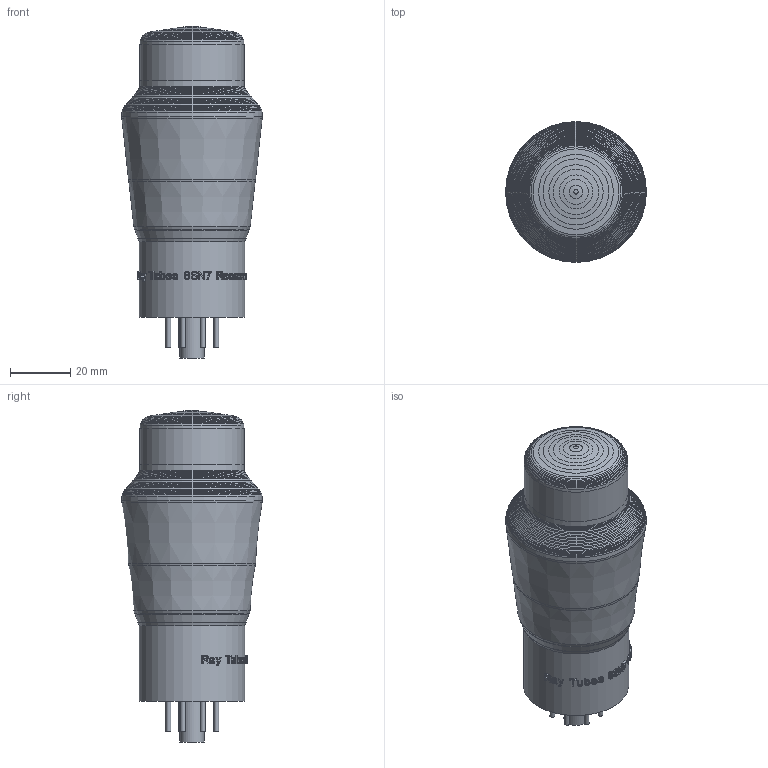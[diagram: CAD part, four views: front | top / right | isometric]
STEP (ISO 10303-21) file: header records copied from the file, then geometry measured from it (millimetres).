
FILE_DESCRIPTION(('Open CASCADE Model'),'2;1');
FILE_NAME('Open CASCADE Shape Model','2026-06-14T20:36:49',('Author'),( 'Open CASCADE'),'Open CASCADE STEP processor 7.8','Open CASCADE 7.8' ,'Unknown');
FILE_SCHEMA(('AUTOMOTIVE_DESIGN { 1 0 10303 214 1 1 1 1 }'));
Length unit declared in the file: millimetre
Products named in the file (6): Ray_Tubes_6SN7_Reserve_from_DXF_mm; Socket_layer; Socket_key_layer; Glas_layer; Pin_layer; Model_label_layer
Assembly tree (5 placements, depth 2):
  Ray_Tubes_6SN7_Reserve_from_DXF_mm
    Socket_layer
    Socket_key_layer
    Glas_layer
    Pin_layer
    Model_label_layer
Bounding box: 46.65 x 46.65 x 110 mm (x, y, z)
Volume: 113077.3 mm3; surface area: 16504.4 mm2
Topology: 30 solids, 30 shells, 537 faces, 1374 edges, 897 vertices
Faces by surface type: extrusion 308, plane 161, cone 57, cylinder 11
Full cylindrical faces by diameter (mm): 1.6 x8, 8 x1, 34.509 x1, 35 x1
Entity records: 16825 total; most frequent: CARTESIAN_POINT 4662, ORIENTED_EDGE 2748, DIRECTION 1615, EDGE_CURVE 1374, VECTOR 987, B_SPLINE_CURVE_WITH_KNOTS 924, VERTEX_POINT 897, LINE 679
